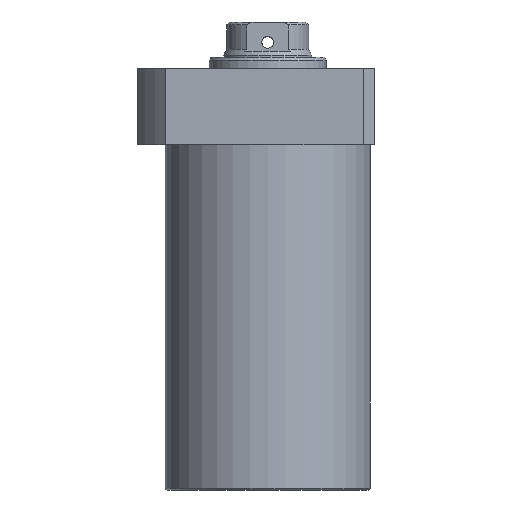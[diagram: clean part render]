
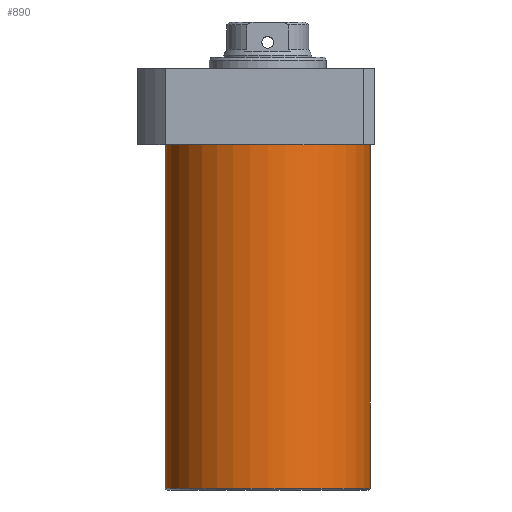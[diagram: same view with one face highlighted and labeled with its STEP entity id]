
A CAD part, front view. The second image highlights one B-rep face of the part: STEP entity #890.
In plain terms, the highlighted cylindrical face has radius 52.5 mm (diameter 105 mm), a partial arc.
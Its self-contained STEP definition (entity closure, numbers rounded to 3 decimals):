
#73 = CARTESIAN_POINT ( 'NONE',  ( 52.5, 0., -195.5 ) ) ;
#182 = FACE_OUTER_BOUND ( 'NONE', #692, .T. ) ;
#193 = AXIS2_PLACEMENT_3D ( 'NONE', #265, #444, #2168 ) ;
#265 = CARTESIAN_POINT ( 'NONE',  ( 0., 0., -196.5 ) ) ;
#278 = ORIENTED_EDGE ( 'NONE', *, *, #1484, .T. ) ;
#393 = EDGE_CURVE ( 'NONE', #2027, #1266, #1902, .T. ) ;
#429 = ORIENTED_EDGE ( 'NONE', *, *, #393, .F. ) ;
#444 = DIRECTION ( 'NONE',  ( 0., 0., 1. ) ) ;
#561 = VERTEX_POINT ( 'NONE', #2089 ) ;
#690 = VECTOR ( 'NONE', #2191, 1000. ) ;
#692 = EDGE_LOOP ( 'NONE', ( #429, #278, #1725, #993 ) ) ;
#762 = EDGE_CURVE ( 'NONE', #561, #1266, #2190, .T. ) ;
#890 = ADVANCED_FACE ( 'NONE', ( #182 ), #1881, .T. ) ;
#905 = DIRECTION ( 'NONE',  ( 1., 0., 0. ) ) ;
#993 = ORIENTED_EDGE ( 'NONE', *, *, #762, .T. ) ;
#998 = CARTESIAN_POINT ( 'NONE',  ( -52.5, 0., -196.5 ) ) ;
#1064 = DIRECTION ( 'NONE',  ( 0., 0., 1. ) ) ;
#1252 = CIRCLE ( 'NONE', #1892, 52.5 ) ;
#1266 = VERTEX_POINT ( 'NONE', #1268 ) ;
#1268 = CARTESIAN_POINT ( 'NONE',  ( -52.5, 0., -19.5 ) ) ;
#1273 = VERTEX_POINT ( 'NONE', #73 ) ;
#1279 = VECTOR ( 'NONE', #1064, 1000. ) ;
#1484 = EDGE_CURVE ( 'NONE', #2027, #1273, #1252, .T. ) ;
#1506 = CARTESIAN_POINT ( 'NONE',  ( 0., 0., -195.5 ) ) ;
#1607 = CARTESIAN_POINT ( 'NONE',  ( 52.5, 0., -196.5 ) ) ;
#1629 = LINE ( 'NONE', #1607, #1279 ) ;
#1630 = CARTESIAN_POINT ( 'NONE',  ( 0., 0., -19.5 ) ) ;
#1681 = AXIS2_PLACEMENT_3D ( 'NONE', #1630, #2106, #905 ) ;
#1725 = ORIENTED_EDGE ( 'NONE', *, *, #2043, .T. ) ;
#1881 = CYLINDRICAL_SURFACE ( 'NONE', #193, 52.5 ) ;
#1892 = AXIS2_PLACEMENT_3D ( 'NONE', #1506, #2209, #2195 ) ;
#1902 = LINE ( 'NONE', #998, #690 ) ;
#1929 = CARTESIAN_POINT ( 'NONE',  ( -52.5, 0., -195.5 ) ) ;
#2027 = VERTEX_POINT ( 'NONE', #1929 ) ;
#2043 = EDGE_CURVE ( 'NONE', #1273, #561, #1629, .T. ) ;
#2089 = CARTESIAN_POINT ( 'NONE',  ( 52.5, 0., -19.5 ) ) ;
#2106 = DIRECTION ( 'NONE',  ( 0., 0., -1. ) ) ;
#2168 = DIRECTION ( 'NONE',  ( 1., 0., 0. ) ) ;
#2190 = CIRCLE ( 'NONE', #1681, 52.5 ) ;
#2191 = DIRECTION ( 'NONE',  ( 0., 0., 1. ) ) ;
#2195 = DIRECTION ( 'NONE',  ( -1., 0., 0. ) ) ;
#2209 = DIRECTION ( 'NONE',  ( 0., 0., 1. ) ) ;
